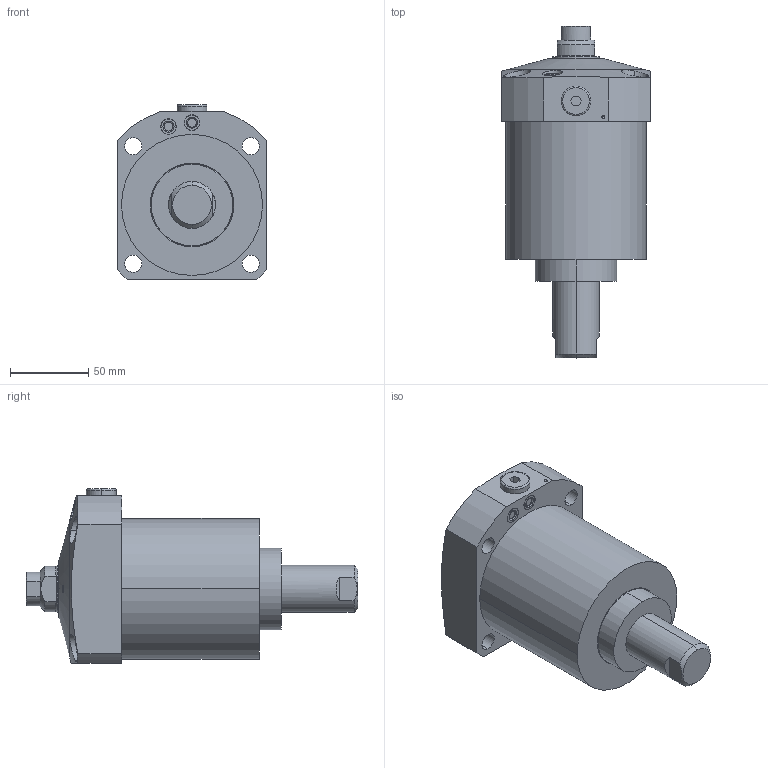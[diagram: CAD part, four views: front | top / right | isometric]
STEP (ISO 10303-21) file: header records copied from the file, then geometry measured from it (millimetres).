
FILE_DESCRIPTION(/* description */ (''),/* implementation_level */ '2;1');
FILE_NAME(/* name */ 'KFSC90-Q.stp',/* time_stamp */ '2023-01-10T13:31:24+08:00',/* author */ (''),/* organization */ (''),/* preprocessor_version */ 'ST-DEVELOPER v16.7',/* originating_system */ 'SIEMENS PLM Software NX 12.0',/* authorisation */ '');
FILE_SCHEMA (('AP203_CONFIGURATION_CONTROLLED_3D_DESIGN_OF_MECHANICAL_PARTS_AND_ASSEMBLIES_MIM_LF { 1 0 10303 403 2 1 2}'));
Length unit declared in the file: millimetre
Products named in the file (8): KFSC90-Q-1; KFSC90-Q-6; KFSC90-Q-4; KFSC90-Q-7; KFSC90-Q-5; KFSC90-Q-3; KFSC90-Q-2; LC0902-C-Q_step
Assembly tree (8 placements, depth 2):
  LC0902-C-Q_step
    KFSC90-Q-2
    KFSC90-Q-3
    KFSC90-Q-5
    KFSC90-Q-7  x2
    KFSC90-Q-4
    KFSC90-Q-6
    KFSC90-Q-1
Bounding box: 95 x 212 x 111.5 mm (x, y, z)
Volume: 947214.5 mm3; surface area: 84658.9 mm2
Topology: 8 solids, 8 shells, 221 faces, 486 edges, 300 vertices
Faces by surface type: cylinder 84, plane 65, cone 42, torus 28, sphere 2
Entity records: 6927 total; most frequent: CARTESIAN_POINT 1231, DIRECTION 1092, ORIENTED_EDGE 912, EDGE_CURVE 456, AXIS2_PLACEMENT_3D 454, VERTEX_POINT 286, EDGE_LOOP 246, CIRCLE 236
